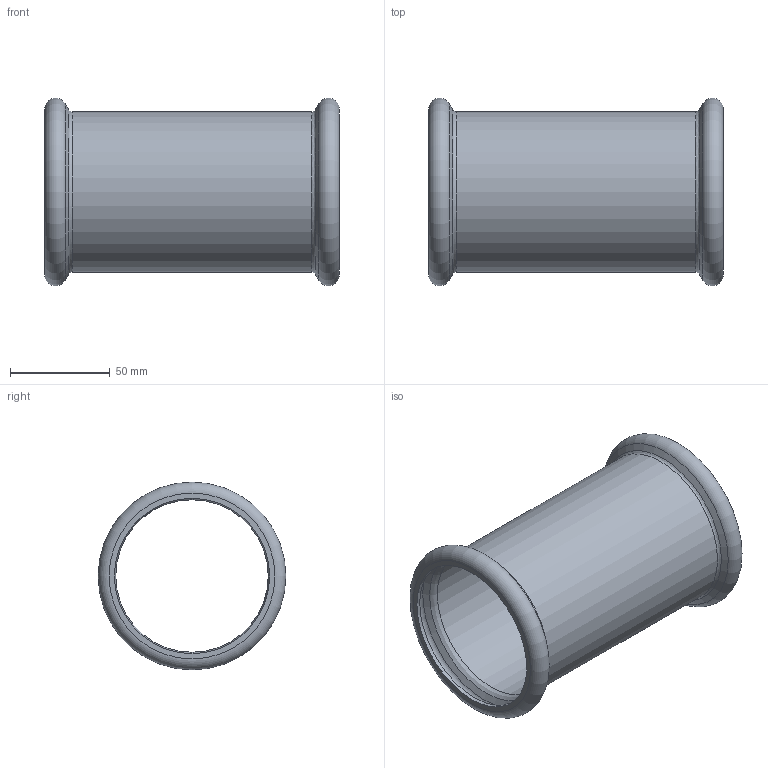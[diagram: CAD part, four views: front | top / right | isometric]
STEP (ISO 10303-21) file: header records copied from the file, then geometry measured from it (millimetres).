
FILE_DESCRIPTION((''),'2;1');
FILE_NAME('G:\Nirosan-Schmiedefeld\Technics\CAD\Bauteile VA\076\69270s76(1).stp','2011-10-27T15:23:17',('herberg'),(''),'Autodesk Inventor 2009','Autodesk Inventor 2009','');
FILE_SCHEMA(('AUTOMOTIVE_DESIGN { 1 0 10303 214 1 1 1 1 }'));
Length unit declared in the file: millimetre
Products named in the file (1): 69270s76(1)
Bounding box: 148 x 94.3 x 94.3 mm (x, y, z)
Volume: 82408.6 mm3; surface area: 83401.4 mm2
Topology: 1 solids, 1 shells, 20 faces, 36 edges, 20 vertices
Faces by surface type: plane 4, torus 4, cone 4, bspline 4, cylinder 4
Full cylindrical faces by diameter (mm): 76.6 x1, 78 x2, 80.6 x1
Entity records: 594 total; most frequent: CARTESIAN_POINT 237, DIRECTION 74, ORIENTED_EDGE 40, EDGE_LOOP 40, AXIS2_PLACEMENT_3D 37, VERTEX_POINT 20, CIRCLE 20, EDGE_CURVE 20
